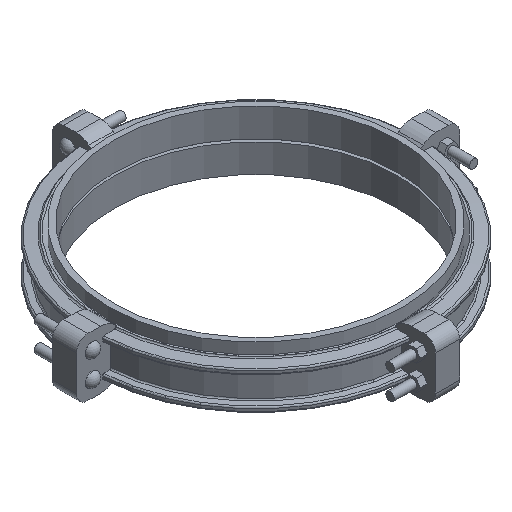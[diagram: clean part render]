
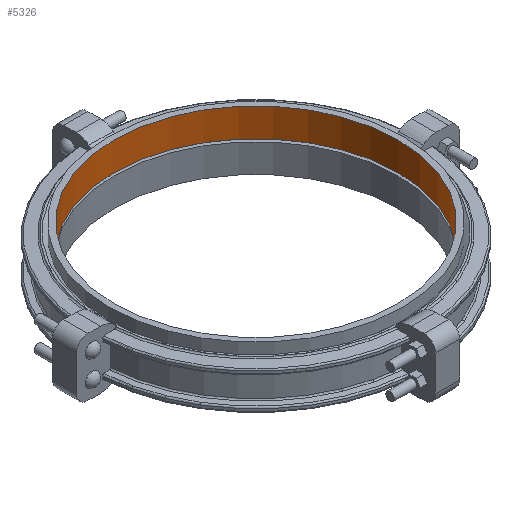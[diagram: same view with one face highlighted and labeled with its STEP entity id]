
A CAD part, isometric view. The second image highlights one B-rep face of the part: STEP entity #5326.
In plain terms, the highlighted cylindrical face has radius 635 mm (diameter 1270 mm), a full revolution.
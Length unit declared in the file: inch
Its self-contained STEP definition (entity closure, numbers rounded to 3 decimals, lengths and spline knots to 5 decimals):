
#270=CYLINDRICAL_SURFACE('',#5937,25.);
#588=FACE_OUTER_BOUND('',#906,.T.);
#906=EDGE_LOOP('',(#4630,#4631,#4632,#4633,#4634,#4635));
#1291=LINE('',#10065,#1674);
#1674=VECTOR('',#7388,25.);
#1927=CIRCLE('',#5935,25.);
#1928=CIRCLE('',#5936,25.);
#1929=CIRCLE('',#5938,25.);
#1930=CIRCLE('',#5939,25.);
#2431=VERTEX_POINT('',#10059);
#2432=VERTEX_POINT('',#10060);
#2433=VERTEX_POINT('',#10064);
#2434=VERTEX_POINT('',#10066);
#3165=EDGE_CURVE('',#2431,#2432,#1927,.T.);
#3166=EDGE_CURVE('',#2432,#2431,#1928,.T.);
#3167=EDGE_CURVE('',#2432,#2433,#1291,.T.);
#3168=EDGE_CURVE('',#2434,#2433,#1929,.T.);
#3169=EDGE_CURVE('',#2433,#2434,#1930,.T.);
#4630=ORIENTED_EDGE('',*,*,#3165,.T.);
#4631=ORIENTED_EDGE('',*,*,#3167,.T.);
#4632=ORIENTED_EDGE('',*,*,#3168,.F.);
#4633=ORIENTED_EDGE('',*,*,#3169,.F.);
#4634=ORIENTED_EDGE('',*,*,#3167,.F.);
#4635=ORIENTED_EDGE('',*,*,#3166,.T.);
#5326=ADVANCED_FACE('',(#588),#270,.F.);
#5935=AXIS2_PLACEMENT_3D('',#10061,#7382,#7383);
#5936=AXIS2_PLACEMENT_3D('',#10062,#7384,#7385);
#5937=AXIS2_PLACEMENT_3D('',#10063,#7386,#7387);
#5938=AXIS2_PLACEMENT_3D('',#10067,#7389,#7390);
#5939=AXIS2_PLACEMENT_3D('',#10068,#7391,#7392);
#7382=DIRECTION('center_axis',(0.,0.,-1.));
#7383=DIRECTION('ref_axis',(1.,0.,0.));
#7384=DIRECTION('center_axis',(0.,0.,-1.));
#7385=DIRECTION('ref_axis',(1.,0.,0.));
#7386=DIRECTION('center_axis',(0.,0.,-1.));
#7387=DIRECTION('ref_axis',(0.,1.,0.));
#7388=DIRECTION('',(0.,0.,1.));
#7389=DIRECTION('center_axis',(0.,0.,-1.));
#7390=DIRECTION('ref_axis',(1.,0.,0.));
#7391=DIRECTION('center_axis',(0.,0.,-1.));
#7392=DIRECTION('ref_axis',(1.,0.,0.));
#10059=CARTESIAN_POINT('',(0.,25.,0.));
#10060=CARTESIAN_POINT('',(0.,-25.,0.));
#10061=CARTESIAN_POINT('Origin',(0.,0.,0.));
#10062=CARTESIAN_POINT('Origin',(0.,0.,0.));
#10063=CARTESIAN_POINT('Origin',(0.,0.,2.5));
#10064=CARTESIAN_POINT('',(0.,-25.,5.));
#10065=CARTESIAN_POINT('',(0.,-25.,2.5));
#10066=CARTESIAN_POINT('',(0.,25.,5.));
#10067=CARTESIAN_POINT('Origin',(0.,0.,5.));
#10068=CARTESIAN_POINT('Origin',(0.,0.,5.));
